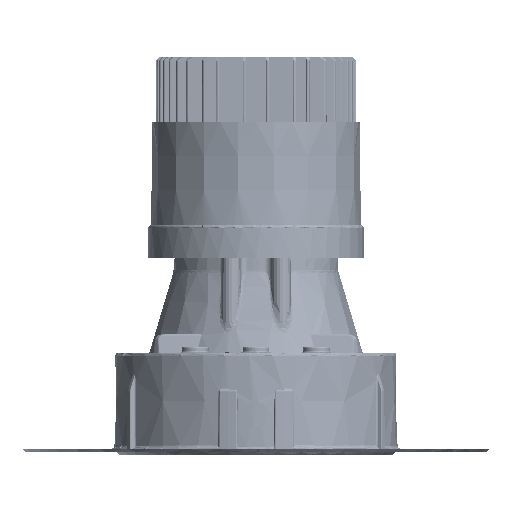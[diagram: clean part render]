
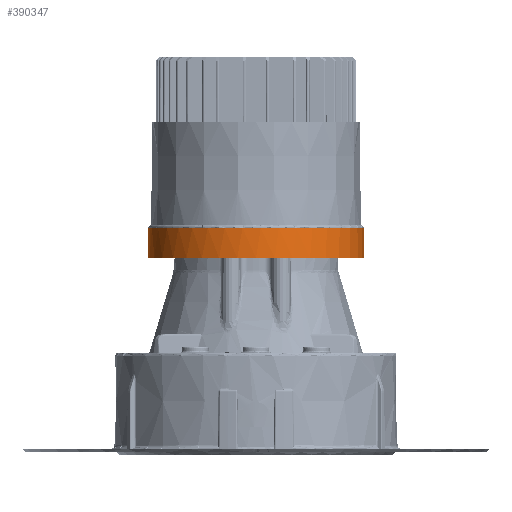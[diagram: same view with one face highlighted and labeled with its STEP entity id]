
A CAD part, left-side view. The second image highlights one B-rep face of the part: STEP entity #390347.
In plain terms, the highlighted conical face has half-angle 1 degrees and reference radius 32.221 mm.
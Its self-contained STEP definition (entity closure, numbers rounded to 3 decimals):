
#385611=CARTESIAN_POINT('Vertex',(-8.18,31.084,67.017)) ;
#385614=CARTESIAN_POINT('Axis2P3D Location',(0.,0.,67.017)) ;
#385618=CARTESIAN_POINT('Vertex',(0.,-32.143,67.017)) ;
#386416=CARTESIAN_POINT('Vertex',(0.,32.143,67.017)) ;
#390304=CARTESIAN_POINT('Axis2P3D Location',(0.,0.,67.017)) ;
#390316=CARTESIAN_POINT('Axis2P3D Location',(0.,0.,62.509)) ;
#390321=CARTESIAN_POINT('Axis2P3D Location',(0.,0.,58.)) ;
#390325=CARTESIAN_POINT('Vertex',(0.,32.3,58.)) ;
#390327=CARTESIAN_POINT('Vertex',(0.,-32.3,58.)) ;
#390330=CARTESIAN_POINT('Line Origine',(0.,-8742.314,-498938.36)) ;
#390335=CARTESIAN_POINT('Line Origine',(0.,8742.314,-498938.36)) ;
#385615=DIRECTION('Axis2P3D Direction',(0.,-0.,-1.)) ;
#390305=DIRECTION('Axis2P3D Direction',(0.,-0.,-1.)) ;
#390317=DIRECTION('Axis2P3D Direction',(0.,0.,-1.)) ;
#390318=DIRECTION('Axis2P3D XDirection',(0.,-1.,0.)) ;
#390322=DIRECTION('Axis2P3D Direction',(-0.,-0.,-1.)) ;
#390331=DIRECTION('Vector Direction',(0.,-0.017,-1.)) ;
#390336=DIRECTION('Vector Direction',(0.,0.017,-1.)) ;
#385616=AXIS2_PLACEMENT_3D('Circle Axis2P3D',#385614,#385615,$) ;
#390306=AXIS2_PLACEMENT_3D('Circle Axis2P3D',#390304,#390305,$) ;
#390319=AXIS2_PLACEMENT_3D('Cone Axis2P3D',#390316,#390317,#390318) ;
#390323=AXIS2_PLACEMENT_3D('Circle Axis2P3D',#390321,#390322,$) ;
#390341=ORIENTED_EDGE('',*,*,#390329,.T.) ;
#390342=ORIENTED_EDGE('',*,*,#390334,.F.) ;
#390343=ORIENTED_EDGE('',*,*,#385620,.T.) ;
#390344=ORIENTED_EDGE('',*,*,#390308,.T.) ;
#390345=ORIENTED_EDGE('',*,*,#390339,.T.) ;
#390332=VECTOR('Line Direction',#390331,1.) ;
#390337=VECTOR('Line Direction',#390336,1.) ;
#390347=ADVANCED_FACE('141\\136\\MANIFOLD_SOLID_BREP #277194',(#390346),#390320,.T.) ;
#385617=CIRCLE('generated circle',#385616,32.143) ;
#390307=CIRCLE('generated circle',#390306,32.143) ;
#390324=CIRCLE('generated circle',#390323,32.3) ;
#390320=CONICAL_SURFACE('Cone',#390319,32.221,0.017) ;
#385620=EDGE_CURVE('',#385619,#385612,#385617,.T.) ;
#390308=EDGE_CURVE('',#385612,#386417,#390307,.T.) ;
#390329=EDGE_CURVE('',#390326,#390328,#390324,.F.) ;
#390334=EDGE_CURVE('',#385619,#390328,#390333,.T.) ;
#390339=EDGE_CURVE('',#386417,#390326,#390338,.T.) ;
#390340=EDGE_LOOP('',(#390341,#390342,#390343,#390344,#390345)) ;
#390346=FACE_OUTER_BOUND('',#390340,.T.) ;
#390333=LINE('Line',#390330,#390332) ;
#390338=LINE('Line',#390335,#390337) ;
#385612=VERTEX_POINT('',#385611) ;
#385619=VERTEX_POINT('',#385618) ;
#386417=VERTEX_POINT('',#386416) ;
#390326=VERTEX_POINT('',#390325) ;
#390328=VERTEX_POINT('',#390327) ;
